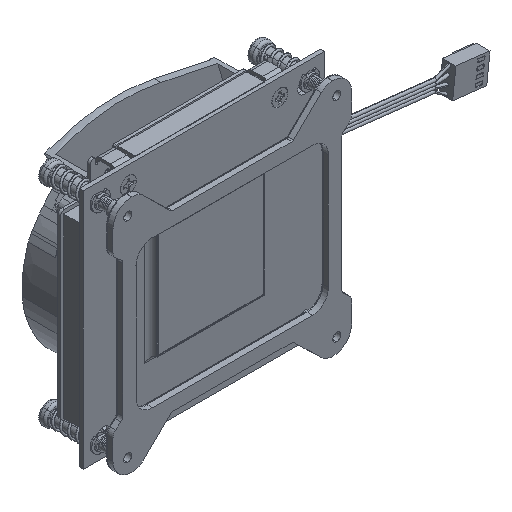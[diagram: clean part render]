
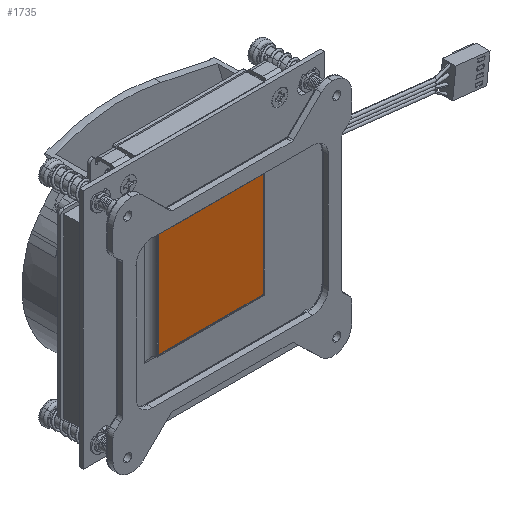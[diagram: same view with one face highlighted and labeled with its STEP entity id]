
A CAD part, isometric view. The second image highlights one B-rep face of the part: STEP entity #1735.
In plain terms, the highlighted planar face has unit normal (0, -1, 0).
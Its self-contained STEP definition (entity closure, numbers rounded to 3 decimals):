
#1656=DIRECTION('',(0.,0.,1.));
#1657=VECTOR('',#1656,39.);
#1658=CARTESIAN_POINT('',(-19.5,0.,-19.5));
#1659=LINE('',#1658,#1657);
#1660=DIRECTION('',(1.,0.,0.));
#1661=VECTOR('',#1660,39.);
#1662=CARTESIAN_POINT('',(-19.5,0.,19.5));
#1663=LINE('',#1662,#1661);
#1664=DIRECTION('',(0.,0.,-1.));
#1665=VECTOR('',#1664,39.);
#1666=CARTESIAN_POINT('',(19.5,0.,19.5));
#1667=LINE('',#1666,#1665);
#1668=DIRECTION('',(-1.,0.,0.));
#1669=VECTOR('',#1668,39.);
#1670=CARTESIAN_POINT('',(19.5,0.,-19.5));
#1671=LINE('',#1670,#1669);
#1704=CARTESIAN_POINT('',(-19.5,0.,-19.5));
#1705=CARTESIAN_POINT('',(-19.5,0.,19.5));
#1706=VERTEX_POINT('',#1704);
#1707=VERTEX_POINT('',#1705);
#1708=CARTESIAN_POINT('',(19.5,0.,19.5));
#1709=VERTEX_POINT('',#1708);
#1710=CARTESIAN_POINT('',(19.5,0.,-19.5));
#1711=VERTEX_POINT('',#1710);
#1720=CARTESIAN_POINT('',(0.,0.,0.));
#1721=DIRECTION('',(0.,1.,0.));
#1722=DIRECTION('',(1.,0.,0.));
#1723=AXIS2_PLACEMENT_3D('',#1720,#1721,#1722);
#1724=PLANE('',#1723);
#1726=ORIENTED_EDGE('',*,*,#1725,.T.);
#1728=ORIENTED_EDGE('',*,*,#1727,.T.);
#1730=ORIENTED_EDGE('',*,*,#1729,.T.);
#1732=ORIENTED_EDGE('',*,*,#1731,.T.);
#1733=EDGE_LOOP('',(#1726,#1728,#1730,#1732));
#1734=FACE_OUTER_BOUND('',#1733,.F.);
#1735=ADVANCED_FACE('',(#1734),#1724,.F.);
#1725=EDGE_CURVE('',#1706,#1707,#1659,.T.);
#1727=EDGE_CURVE('',#1707,#1709,#1663,.T.);
#1729=EDGE_CURVE('',#1709,#1711,#1667,.T.);
#1731=EDGE_CURVE('',#1711,#1706,#1671,.T.);
